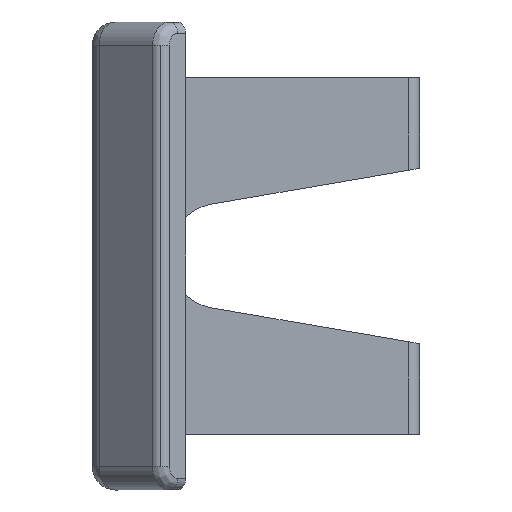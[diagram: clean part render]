
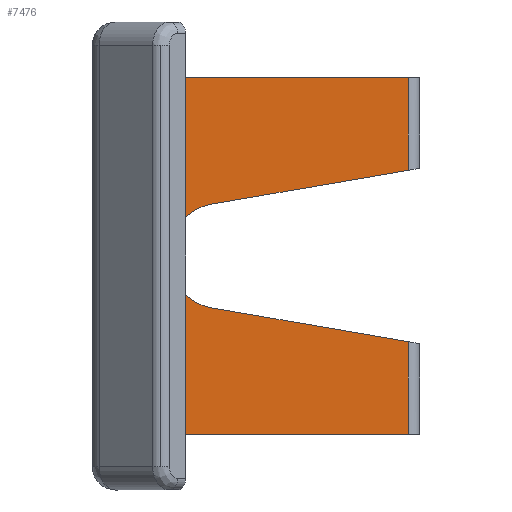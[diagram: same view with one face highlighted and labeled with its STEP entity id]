
A CAD part, left-side view. The second image highlights one B-rep face of the part: STEP entity #7476.
In plain terms, the highlighted planar face has unit normal (-1, 0, 0).
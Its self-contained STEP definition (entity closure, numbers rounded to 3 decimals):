
#27 = ORIENTED_EDGE ( 'NONE', *, *, #4769, .T. ) ;
#28 = CARTESIAN_POINT ( 'NONE',  ( -1., 0.5, -15.25 ) ) ;
#45 = CARTESIAN_POINT ( 'NONE',  ( -1., -7.235, -4.434 ) ) ;
#275 = ORIENTED_EDGE ( 'NONE', *, *, #6733, .F. ) ;
#343 = LINE ( 'NONE', #6708, #610 ) ;
#348 = PLANE ( 'NONE',  #6520 ) ;
#507 = VERTEX_POINT ( 'NONE', #4052 ) ;
#610 = VECTOR ( 'NONE', #4959, 1000. ) ;
#638 = VERTEX_POINT ( 'NONE', #3168 ) ;
#666 = VECTOR ( 'NONE', #5045, 1000. ) ;
#932 = EDGE_CURVE ( 'NONE', #6185, #507, #3918, .T. ) ;
#1014 = VECTOR ( 'NONE', #1564, 1000. ) ;
#1027 = CARTESIAN_POINT ( 'NONE',  ( -1., 1., 15.25 ) ) ;
#1075 = EDGE_CURVE ( 'NONE', #638, #5280, #2586, .T. ) ;
#1148 = LINE ( 'NONE', #6914, #7125 ) ;
#1457 = CARTESIAN_POINT ( 'NONE',  ( -1., -24., 15.25 ) ) ;
#1499 = CARTESIAN_POINT ( 'NONE',  ( -1., -24., 15.25 ) ) ;
#1564 = DIRECTION ( 'NONE',  ( 0., 0., -1. ) ) ;
#1698 = CARTESIAN_POINT ( 'NONE',  ( -1., -24., 7.327 ) ) ;
#1902 = EDGE_CURVE ( 'NONE', #2064, #3692, #4596, .T. ) ;
#2029 = CARTESIAN_POINT ( 'NONE',  ( -1., 0.5, 15.25 ) ) ;
#2064 = VERTEX_POINT ( 'NONE', #2386 ) ;
#2109 = DIRECTION ( 'NONE',  ( 0., 0., -1. ) ) ;
#2187 = DIRECTION ( 'NONE',  ( 0., 0., -1. ) ) ;
#2386 = CARTESIAN_POINT ( 'NONE',  ( -1., 0.5, 15.25 ) ) ;
#2419 = ORIENTED_EDGE ( 'NONE', *, *, #1902, .F. ) ;
#2586 = CIRCLE ( 'NONE', #6461, 4.5 ) ;
#2616 = VERTEX_POINT ( 'NONE', #1698 ) ;
#2910 = VECTOR ( 'NONE', #6972, 1000. ) ;
#2939 = ORIENTED_EDGE ( 'NONE', *, *, #4919, .F. ) ;
#3056 = ORIENTED_EDGE ( 'NONE', *, *, #5589, .F. ) ;
#3168 = CARTESIAN_POINT ( 'NONE',  ( -1., -7.235, 4.434 ) ) ;
#3175 = DIRECTION ( 'NONE',  ( 0., 0., 1. ) ) ;
#3379 = CARTESIAN_POINT ( 'NONE',  ( -1., -24., 15.25 ) ) ;
#3391 = VECTOR ( 'NONE', #2109, 1000. ) ;
#3403 = VECTOR ( 'NONE', #2187, 1000. ) ;
#3463 = DIRECTION ( 'NONE',  ( 0., -0.985, -0.17 ) ) ;
#3692 = VERTEX_POINT ( 'NONE', #1457 ) ;
#3720 = CARTESIAN_POINT ( 'NONE',  ( -1., -24., -7.327 ) ) ;
#3744 = CARTESIAN_POINT ( 'NONE',  ( -1., -8., 0. ) ) ;
#3787 = CARTESIAN_POINT ( 'NONE',  ( -1., 1., 15.25 ) ) ;
#3830 = DIRECTION ( 'NONE',  ( 1., 0., 0. ) ) ;
#3918 = LINE ( 'NONE', #3379, #1014 ) ;
#4052 = CARTESIAN_POINT ( 'NONE',  ( -1., -24., -15.25 ) ) ;
#4280 = DIRECTION ( 'NONE',  ( -1., 0., 0. ) ) ;
#4596 = LINE ( 'NONE', #1027, #666 ) ;
#4664 = LINE ( 'NONE', #6938, #2910 ) ;
#4769 = EDGE_CURVE ( 'NONE', #2064, #5909, #6661, .T. ) ;
#4879 = EDGE_LOOP ( 'NONE', ( #27, #2939, #6508, #5760, #7447, #275, #3056, #2419 ) ) ;
#4919 = EDGE_CURVE ( 'NONE', #507, #5909, #343, .T. ) ;
#4959 = DIRECTION ( 'NONE',  ( 0., 1., 0. ) ) ;
#5045 = DIRECTION ( 'NONE',  ( 0., -1., 0. ) ) ;
#5280 = VERTEX_POINT ( 'NONE', #45 ) ;
#5409 = FACE_OUTER_BOUND ( 'NONE', #4879, .T. ) ;
#5507 = LINE ( 'NONE', #1499, #3403 ) ;
#5589 = EDGE_CURVE ( 'NONE', #3692, #2616, #5507, .T. ) ;
#5760 = ORIENTED_EDGE ( 'NONE', *, *, #7150, .F. ) ;
#5909 = VERTEX_POINT ( 'NONE', #28 ) ;
#6086 = DIRECTION ( 'NONE',  ( 0., 1., 0. ) ) ;
#6185 = VERTEX_POINT ( 'NONE', #3720 ) ;
#6461 = AXIS2_PLACEMENT_3D ( 'NONE', #3744, #4280, #3175 ) ;
#6508 = ORIENTED_EDGE ( 'NONE', *, *, #932, .F. ) ;
#6520 = AXIS2_PLACEMENT_3D ( 'NONE', #3787, #3830, #6086 ) ;
#6661 = LINE ( 'NONE', #2029, #3391 ) ;
#6708 = CARTESIAN_POINT ( 'NONE',  ( -1., 1., -15.25 ) ) ;
#6733 = EDGE_CURVE ( 'NONE', #2616, #638, #4664, .T. ) ;
#6914 = CARTESIAN_POINT ( 'NONE',  ( -1., -7.235, -4.434 ) ) ;
#6938 = CARTESIAN_POINT ( 'NONE',  ( -1., -24., 7.327 ) ) ;
#6972 = DIRECTION ( 'NONE',  ( 0., 0.985, -0.17 ) ) ;
#7125 = VECTOR ( 'NONE', #3463, 1000. ) ;
#7150 = EDGE_CURVE ( 'NONE', #5280, #6185, #1148, .T. ) ;
#7447 = ORIENTED_EDGE ( 'NONE', *, *, #1075, .F. ) ;
#7476 = ADVANCED_FACE ( 'NONE', ( #5409 ), #348, .F. ) ;
